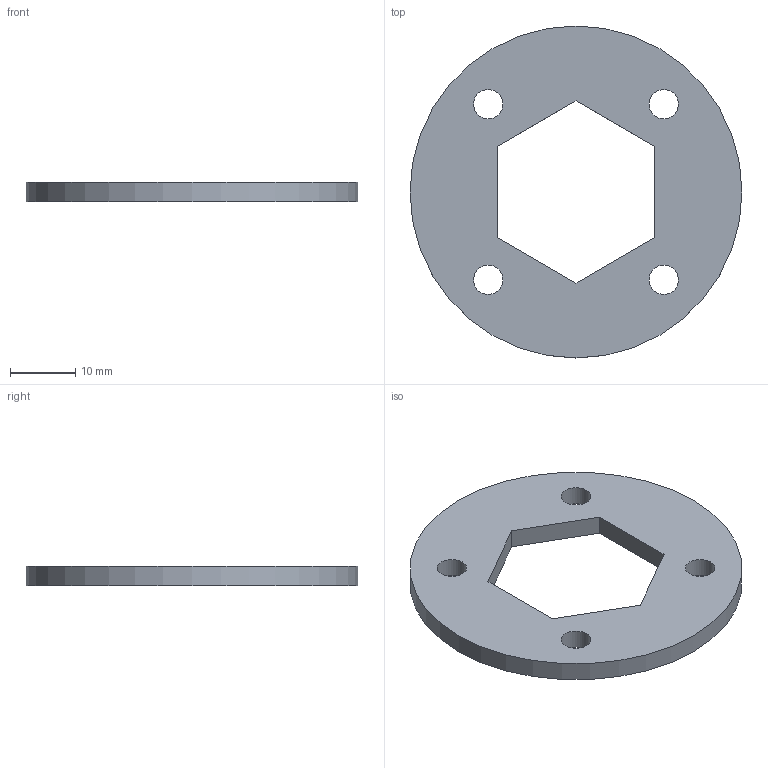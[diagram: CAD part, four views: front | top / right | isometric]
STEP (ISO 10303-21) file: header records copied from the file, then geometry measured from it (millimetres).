
FILE_DESCRIPTION(('FreeCAD Model'),'2;1');
FILE_NAME('Open CASCADE Shape Model','2026-09-19T17:54:12',('FreeCAD'),( 'FreeCAD'),'Open CASCADE STEP processor 7.8','FreeCAD','Unknown');
FILE_SCHEMA(('AUTOMOTIVE_DESIGN { 1 0 10303 214 1 1 1 1 }'));
Length unit declared in the file: millimetre
Products named in the file (1): Open CASCADE STEP translator 7.8 13
Bounding box: 50.8 x 50.8 x 3 mm (x, y, z)
Volume: 4374.4 mm3; surface area: 3815.7 mm2
Topology: 1 solids, 1 shells, 13 faces, 33 edges, 22 vertices
Faces by surface type: plane 8, cylinder 5
Full cylindrical faces by diameter (mm): 4.5 x4, 50.8 x1
Entity records: 427 total; most frequent: DIRECTION 71, CARTESIAN_POINT 69, ORIENTED_EDGE 66, EDGE_CURVE 33, AXIS2_PLACEMENT_3D 24, FACE_BOUND 23, EDGE_LOOP 23, LINE 23
